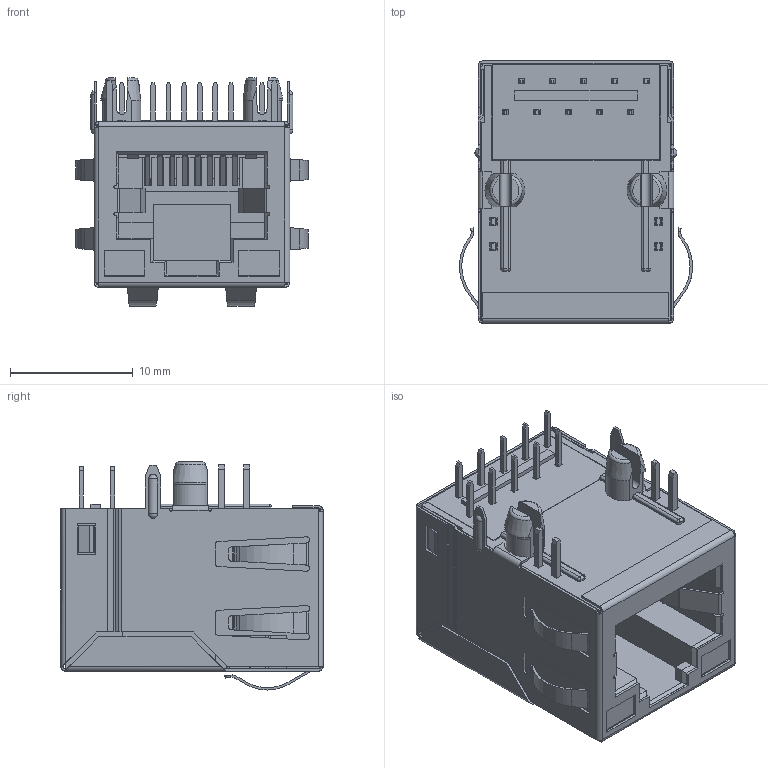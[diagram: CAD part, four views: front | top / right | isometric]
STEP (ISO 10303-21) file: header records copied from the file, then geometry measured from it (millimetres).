
FILE_DESCRIPTION((''),'2;1');
FILE_NAME('DGKYD211Q075FF5A4DZ','2022-05-19T16:44:04',('Administrator'),(''),'CREO PARAMETRIC BY PTC INC, 2018400','CREO PARAMETRIC BY PTC INC, 2018400','');
FILE_SCHEMA(('CONFIG_CONTROL_DESIGN'));
Length unit declared in the file: millimetre
Products named in the file (1): DGKYD211Q075FF5A4DZ
Bounding box: 18.98 x 21.35 x 18.58 mm (x, y, z)
Volume: 1907.7 mm3; surface area: 6766.4 mm2
Topology: 6 solids, 6 shells, 1292 faces, 3915 edges, 2576 vertices
Faces by surface type: plane 1010, cylinder 262, sphere 12, torus 4, cone 4
Entity records: 43995 total; most frequent: CARTESIAN_POINT 8795, ORIENTED_EDGE 7814, DIRECTION 6695, EDGE_CURVE 3907, VECTOR 3207, LINE 3207, VERTEX_POINT 2576, AXIS2_PLACEMENT_3D 1744
